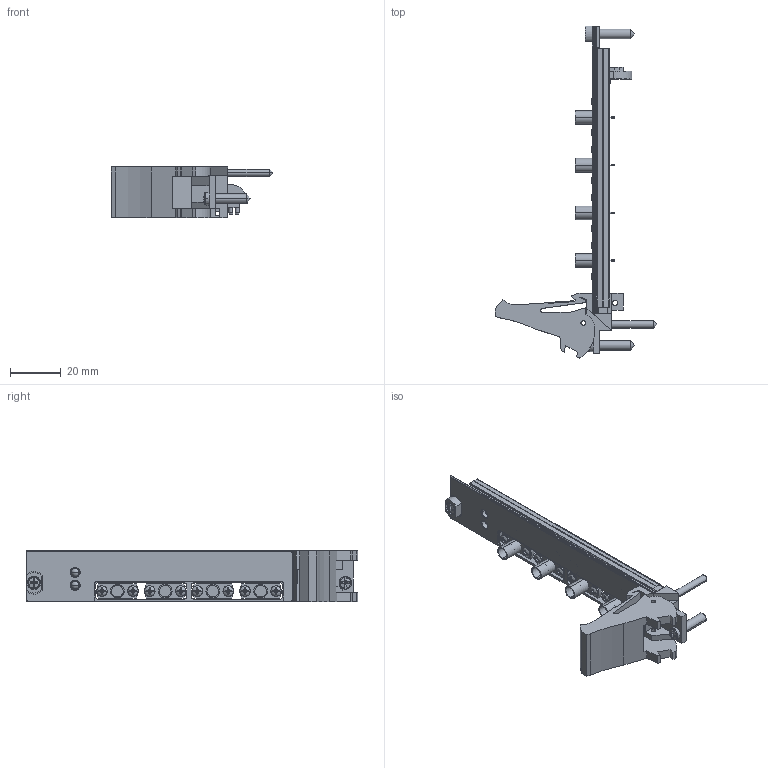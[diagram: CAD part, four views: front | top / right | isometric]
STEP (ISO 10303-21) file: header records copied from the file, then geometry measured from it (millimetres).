
FILE_DESCRIPTION((''),'2;1');
FILE_NAME('CU_PXI-569X','2009-12-31T',('jjorden'),(''),'PRO/ENGINEER BY PARAMETRIC TECHNOLOGY CORPORATION, 2006080','PRO/ENGINEER BY PARAMETRIC TECHNOLOGY CORPORATION, 2006080','');
FILE_SCHEMA(('CONFIG_CONTROL_DESIGN'));
Length unit declared in the file: inch
Products named in the file (1): CU_PXI-569X
Bounding box: 63.53 x 130.5 x 20.31 mm (x, y, z)
Volume: 15882.1 mm3; surface area: 18198.7 mm2
Topology: 8 solids, 11 shells, 894 faces, 2317 edges, 1309 vertices
Faces by surface type: plane 461, cylinder 203, bspline 160, cone 26, sphere 24, torus 20
Entity records: 29334 total; most frequent: CARTESIAN_POINT 8909, ORIENTED_EDGE 4290, DIRECTION 4008, EDGE_CURVE 2145, VERTEX_POINT 1461, AXIS2_PLACEMENT_3D 1424, VECTOR 1160, LINE 1160
